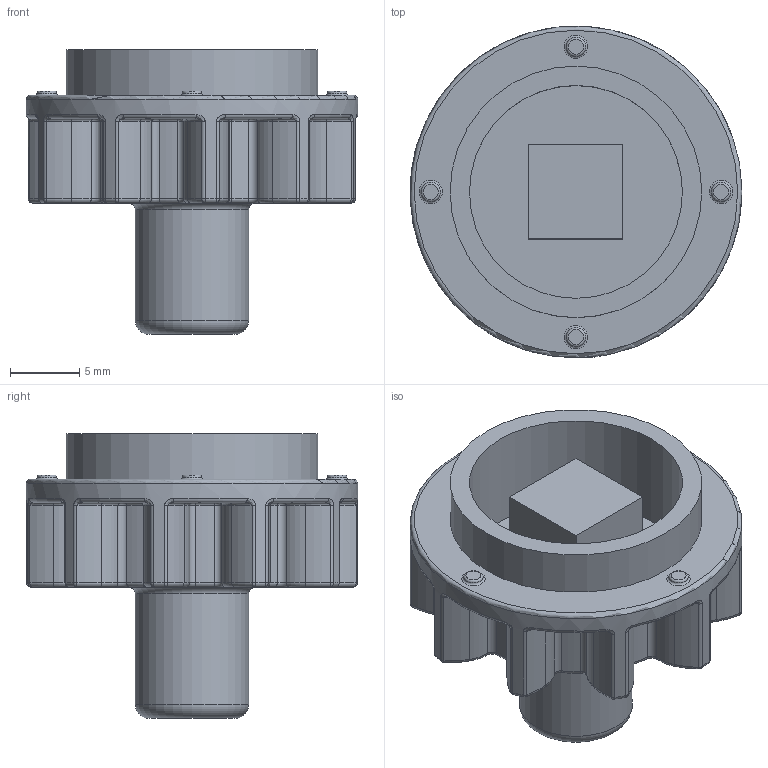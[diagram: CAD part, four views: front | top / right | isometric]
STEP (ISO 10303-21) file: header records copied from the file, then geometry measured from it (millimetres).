
FILE_DESCRIPTION (( 'STEP AP203' ), '1' );
FILE_NAME ('R5NCE211.STEP', '2024-11-25T06:53:05', ( '' ), ( '' ), 'SwSTEP 2.0', 'SolidWorks 2022', '' );
FILE_SCHEMA (( 'CONFIG_CONTROL_DESIGN' ));
Length unit declared in the file: millimetre
Products named in the file (2): RB.2728.00.00.0; R5NCE211
Assembly tree (1 placements, depth 2):
  R5NCE211
    RB.2728.00.00.0
Bounding box: 23.99 x 23.99 x 20.6 mm (x, y, z)
Volume: 2837.1 mm3; surface area: 2734.9 mm2
Topology: 1 solids, 1 shells, 337 faces, 763 edges, 430 vertices
Faces by surface type: torus 174, cylinder 96, plane 26, bspline 20, sphere 20, cone 1
Full cylindrical faces by diameter (mm): 3 x1, 4.8 x1, 8.2 x1, 15.4 x1, 18.2 x1, 24 x1
Entity records: 9922 total; most frequent: CARTESIAN_POINT 2141, DIRECTION 1894, ORIENTED_EDGE 1444, AXIS2_PLACEMENT_3D 891, EDGE_CURVE 722, CIRCLE 570, VERTEX_POINT 418, EDGE_LOOP 368
